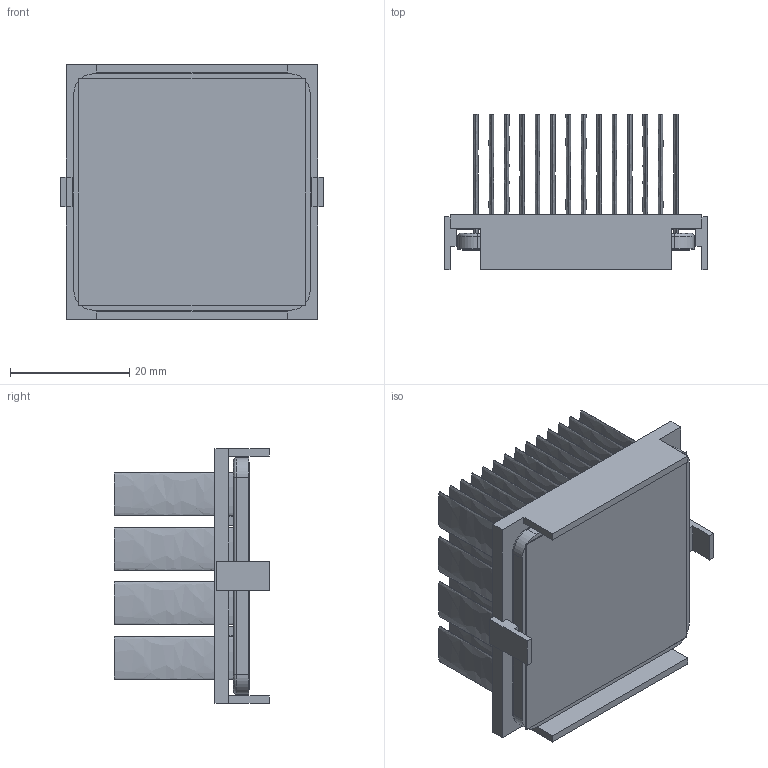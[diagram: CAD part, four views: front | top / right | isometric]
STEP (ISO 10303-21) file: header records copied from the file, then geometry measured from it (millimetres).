
FILE_DESCRIPTION (( 'STEP AP214' ), '1' );
FILE_NAME ('INM40001-23W-2.6Y.STEP', '2023-02-21T17:42:03', ( '' ), ( '' ), 'SwSTEP 2.0', 'SolidWorks 2020', '' );
FILE_SCHEMA (( 'AUTOMOTIVE_DESIGN' ));
Length unit declared in the file: inch
Products named in the file (1): INM40001-23W-2.6Y
Bounding box: 44.2 x 26.1 x 42.7 mm (x, y, z)
Volume: 11371.5 mm3; surface area: 25969.9 mm2
Topology: 3 solids, 3 shells, 250 faces, 556 edges, 368 vertices
Faces by surface type: plane 126, bspline 112, cylinder 8, torus 4
Entity records: 10428 total; most frequent: CARTESIAN_POINT 2631, ORIENTED_EDGE 1112, DIRECTION 630, EDGE_CURVE 556, VERTEX_POINT 368, VECTOR 312, LINE 312, EDGE_LOOP 308
